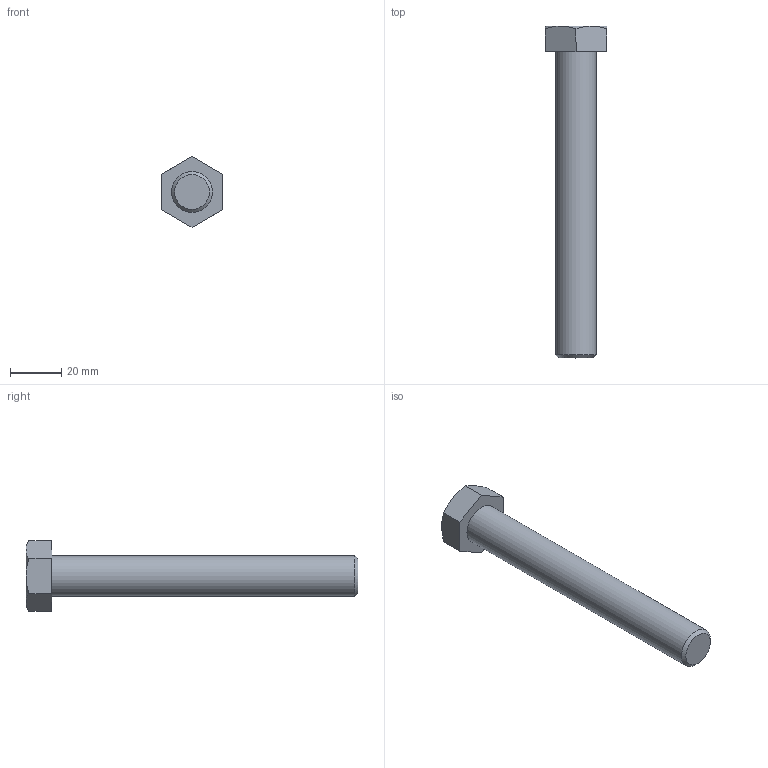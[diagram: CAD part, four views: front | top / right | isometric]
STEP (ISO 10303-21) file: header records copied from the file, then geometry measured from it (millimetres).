
FILE_DESCRIPTION(/* description */ (''),/* implementation_level */ '2;1');
FILE_NAME(/* name */ 'C:\Users\unitec\Documents\Inventor\各種小物\JIS\JIS B 1180 六角ボルト 等級C\hbc16\M16x120.stp',/* time_stamp */ '2015-02-13T14:52:13+09:00',/* author */ ('unitec'),/* organization */ (''),/* preprocessor_version */ 'ST-DEVELOPER v15.2',/* originating_system */ 'Autodesk Inventor 2014',/* authorisation */ '');
FILE_SCHEMA (('AUTOMOTIVE_DESIGN { 1 0 10303 214 3 1 1 }'));
Length unit declared in the file: millimetre
Products named in the file (1): M16x120
Bounding box: 24 x 130 x 27.71 mm (x, y, z)
Volume: 29064.7 mm3; surface area: 7799.3 mm2
Topology: 1 solids, 1 shells, 17 faces, 35 edges, 21 vertices
Faces by surface type: plane 9, cone 7, cylinder 1
Full cylindrical faces by diameter (mm): 16 x1
Entity records: 441 total; most frequent: CARTESIAN_POINT 96, ORIENTED_EDGE 66, DIRECTION 66, EDGE_CURVE 33, AXIS2_PLACEMENT_3D 27, VERTEX_POINT 21, EDGE_LOOP 20, ADVANCED_FACE 17
